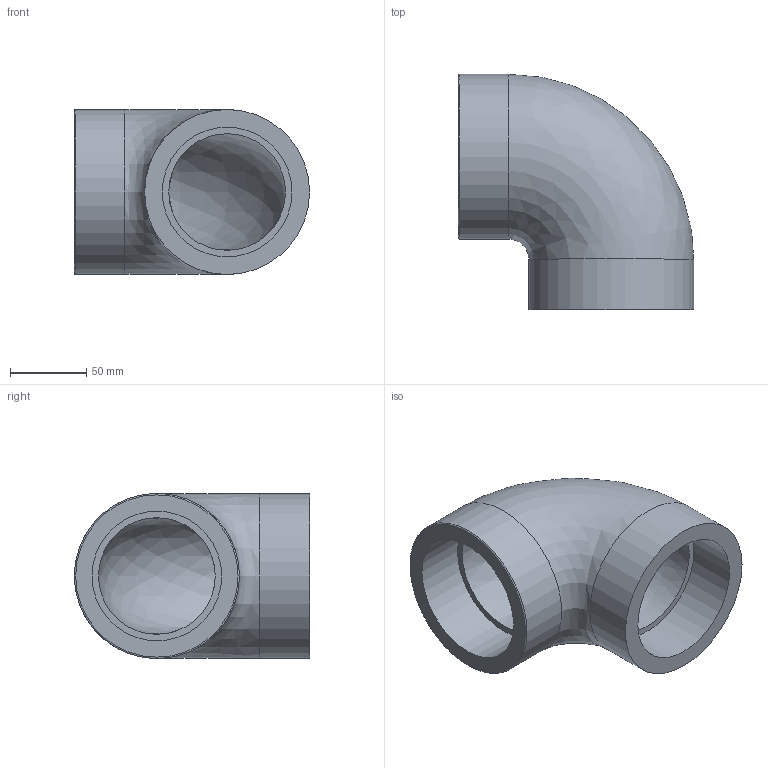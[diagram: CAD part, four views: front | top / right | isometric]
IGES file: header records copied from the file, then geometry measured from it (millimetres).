
Global section: file name: 050501030.ipt; native system: Autodesk Inventor 2015; preprocessor: unknown; author: KIM; date: 20171207.164700; units: millimetre
Bounding box: 154 x 154 x 108 mm (x, y, z)
Volume: 711929.9 mm3; surface area: 110002.9 mm2
Topology: 1 solids, 1 shells, 11 faces, 25 edges, 18 vertices
Faces by surface type: revolution 5, plane 4, cylinder 2
Full cylindrical faces by diameter (mm): 108 x2
